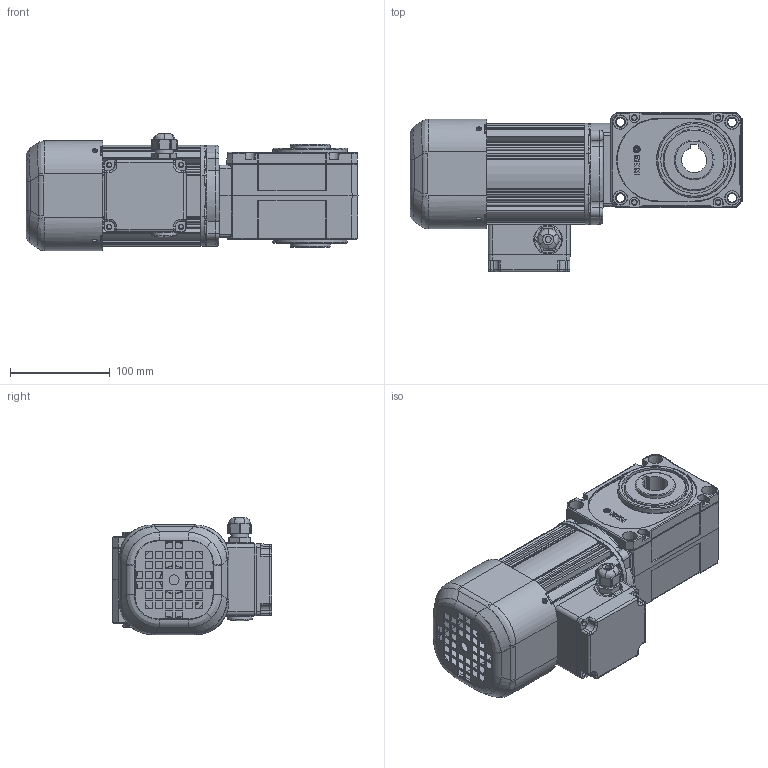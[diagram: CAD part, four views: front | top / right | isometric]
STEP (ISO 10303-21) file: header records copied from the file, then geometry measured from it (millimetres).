
FILE_DESCRIPTION (( 'STEP AP203' ), '1' );
FILE_NAME ('DSY25B-(40~60)B020-¤±.STEP', '2022-08-08T06:41:55', ( '' ), ( '' ), 'SwSTEP 2.0', 'SolidWorks 2018', '' );
FILE_SCHEMA (( 'CONFIG_CONTROL_DESIGN' ));
Length unit declared in the file: millimetre
Products named in the file (15): DKM 窜磊措 惑何荐沥档(20200120); Щ滓衛綰_ル遽; 0.2kW 粽溯檜觼 の醴幗; 95 牢惯橇饭烙 弥辆啊傍档(20200128); DSY02L 馬樓晦; 欽濠夢蝶 ж 熱薑; DKM 0.2kW 菴醴幗 陛奢紫(20200128); 0.2KW 粽溯檜觼 賅攪; 欽濠夢蝶 葆偃; CASE-DSY02L-DC; 堅鼠ぬ韁-ж; DSY25B-(40~60)B020-仃; 堅鼠ぬ韁-鼻; COVER-DSY02L-DC; 欽濠夢蝶 ASS''Y
Assembly tree (14 placements, depth 3):
  DSY25B-(40~60)B020-仃
    欽濠夢蝶 ASS''Y
      欽濠夢蝶 ж 熱薑
      Щ滓衛綰_ル遽
      欽濠夢蝶 葆偃
      堅鼠ぬ韁-鼻
      堅鼠ぬ韁-ж
      DKM 窜磊措 惑何荐沥档(20200120)
    DSY02L 馬樓晦
      CASE-DSY02L-DC
      COVER-DSY02L-DC
    0.2KW 粽溯檜觼 賅攪
      95 牢惯橇饭烙 弥辆啊傍档(20200128)
      DKM 0.2kW 菴醴幗 陛奢紫(20200128)
      0.2kW 粽溯檜觼 の醴幗
Bounding box: 333 x 160.05 x 117.66 mm (x, y, z)
Volume: 2445101.5 mm3; surface area: 369507 mm2
Topology: 11 solids, 12 shells, 1554 faces, 4026 edges, 2533 vertices
Faces by surface type: plane 730, cylinder 504, bspline 214, torus 71, cone 31, sphere 4
Full cylindrical faces by diameter (mm): 2.514 x2, 3.318 x2, 3.5 x4, 4.2 x8, 4.5 x4, 5 x12, 5.3 x12, 5.5 x4, 6 x1, 8.5 x4, 10 x9, 10.8 x1, 14 x4, 16.5 x1, 18 x2, 19 x1, 20 x2, 22 x1, 25 x1, 28 x1, 40 x3, 62 x2, 67 x2
Entity records: 56355 total; most frequent: CARTESIAN_POINT 18280, ORIENTED_EDGE 7676, DIRECTION 7194, EDGE_CURVE 3838, VERTEX_POINT 2504, AXIS2_PLACEMENT_3D 2466, LINE 2262, VECTOR 2262
